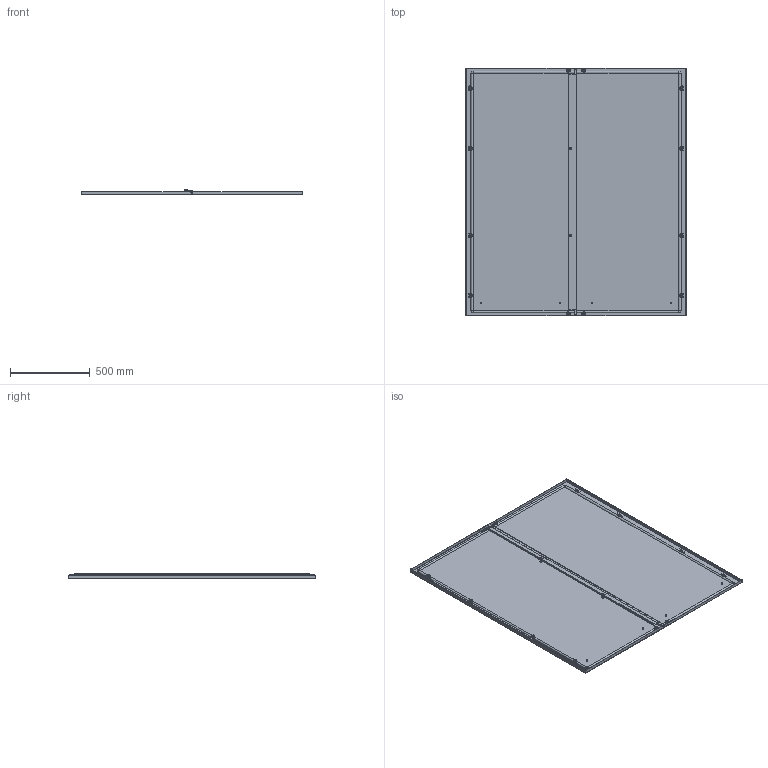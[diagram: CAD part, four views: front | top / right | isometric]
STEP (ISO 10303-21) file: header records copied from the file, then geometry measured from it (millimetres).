
FILE_DESCRIPTION(('Open CASCADE Model'),'2;1');
FILE_NAME('Open CASCADE Shape Model','2025-02-10T17:36:37',('Author'),( 'Open CASCADE'),'Open CASCADE STEP processor 7.8','Open CASCADE 7.8' ,'Unknown');
FILE_SCHEMA(('AUTOMOTIVE_DESIGN { 1 0 10303 214 1 1 1 1 }'));
Length unit declared in the file: millimetre
Products named in the file (19): Compound1; Compound2; Compound3; Solid1; Solid2; Solid3; Compound4; Compound5; Solid4; Compound6; Solid5; Solid6; Solid7; Solid8; Solid9; Solid10; Solid11; Solid12; Solid13
Assembly tree (67 placements, depth 4):
  Compound1
    Compound2
      Compound3
        Solid1
        Solid2  x3
      Solid3
    Compound4
      Compound5
        Solid4
        Solid2  x3
      Solid3
    Compound6  x2
      Solid5
      Solid6
    Solid7
    Solid8  x14
    Solid9  x2
    Solid10  x2
    Solid11  x12
    Solid12  x6
    Solid13  x12
Bounding box: 1394 x 1555 x 36.26 mm (x, y, z)
Volume: 4364045.8 mm3; surface area: 5270204.2 mm2
Topology: 63 solids, 63 shells, 1828 faces, 4488 edges, 2810 vertices
Faces by surface type: plane 1351, cylinder 237, cone 164, torus 44, bspline 28, revolution 4
Full cylindrical faces by diameter (mm): 4.92 x14, 5 x26, 6 x36, 6.5 x2, 7.5 x8, 8 x24, 9 x4, 9.1 x2, 10 x16, 11.57 x14
Entity records: 13696 total; most frequent: CARTESIAN_POINT 2801, DIRECTION 2149, ORIENTED_EDGE 2146, EDGE_CURVE 1073, LINE 763, VECTOR 763, AXIS2_PLACEMENT_3D 692, VERTEX_POINT 673
